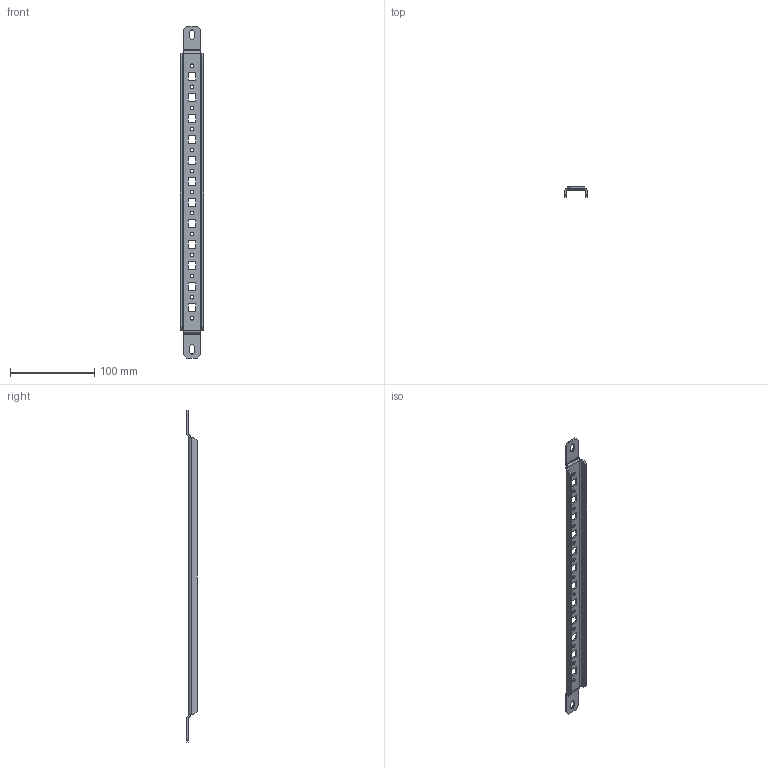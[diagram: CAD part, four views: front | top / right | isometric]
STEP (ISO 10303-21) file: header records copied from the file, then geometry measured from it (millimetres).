
FILE_DESCRIPTION (( 'STEP AP203' ), '1' );
FILE_NAME ('VB 50 GE Ðåéêà äëÿ ãëóõîé äâåðè v2.STEP', '2021-07-07T13:53:09', ( '' ), ( '' ), 'SwSTEP 2.0', 'SolidWorks 2018', '' );
FILE_SCHEMA (( 'CONFIG_CONTROL_DESIGN' ));
Length unit declared in the file: millimetre
Products named in the file (1): VB 50 GE Ðåéêà äëÿ ãëóõîé äâåðè v2
Bounding box: 27.5 x 12.42 x 394.31 mm (x, y, z)
Volume: 27071.6 mm3; surface area: 30154 mm2
Topology: 1 solids, 1 shells, 150 faces, 396 edges, 248 vertices
Faces by surface type: plane 106, cylinder 44
Entity records: 4749 total; most frequent: CARTESIAN_POINT 795, ORIENTED_EDGE 792, DIRECTION 786, EDGE_CURVE 396, LINE 308, VECTOR 308, VERTEX_POINT 248, AXIS2_PLACEMENT_3D 239
